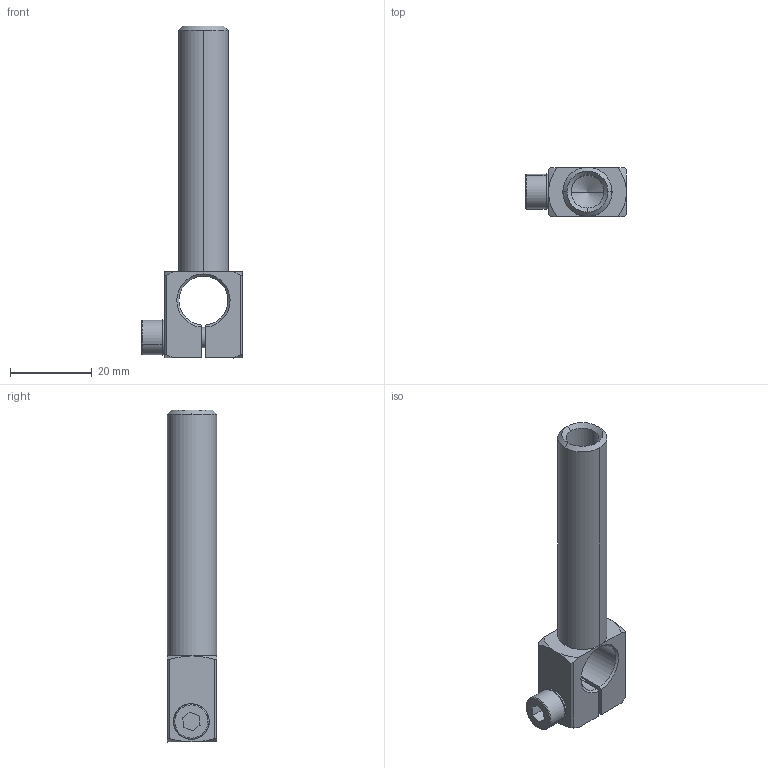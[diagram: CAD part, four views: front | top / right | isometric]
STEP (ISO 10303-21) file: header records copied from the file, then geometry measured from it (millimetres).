
FILE_DESCRIPTION (( 'STEP AP214' ), '1' );
FILE_NAME ('SCA1-1212L60T.STEP', '2023-01-11T06:53:18', ( 'Windows User' ), ( 'P R C' ), 'SwSTEP 2.0', 'SolidWorks 2019', '' );
FILE_SCHEMA (( 'AUTOMOTIVE_DESIGN' ));
Length unit declared in the file: millimetre
Products named in the file (1): SCA1-1212L60T
Bounding box: 24.6 x 12 x 81 mm (x, y, z)
Volume: 7335.1 mm3; surface area: 6597.5 mm2
Topology: 3 solids, 3 shells, 254 faces, 727 edges, 477 vertices
Faces by surface type: plane 216, cone 19, cylinder 17, bspline 2
Entity records: 11337 total; most frequent: CARTESIAN_POINT 1692, ORIENTED_EDGE 1450, DIRECTION 1441, EDGE_CURVE 725, AXIS2_PLACEMENT_3D 495, VERTEX_POINT 477, VECTOR 451, LINE 451
